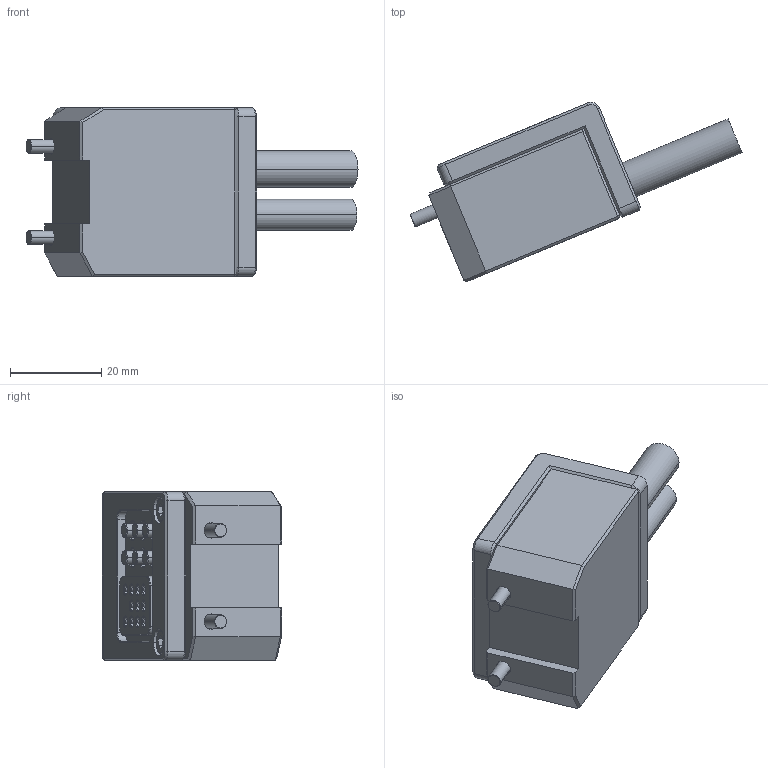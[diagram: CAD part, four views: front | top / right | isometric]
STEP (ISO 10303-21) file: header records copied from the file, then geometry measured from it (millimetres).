
FILE_DESCRIPTION (( 'STEP AP203' ), '1' );
FILE_NAME ('QCSM-RJ45~5M-06G.STEP', '2024-01-11T01:05:05', ( '' ), ( '' ), 'SwSTEP 2.0', 'SolidWorks 2018', '' );
FILE_SCHEMA (( 'CONFIG_CONTROL_DESIGN' ));
Length unit declared in the file: millimetre
Products named in the file (1): QCSM-RJ45~5M-06G
Bounding box: 72.74 x 39.26 x 37 mm (x, y, z)
Volume: 39893.7 mm3; surface area: 9759 mm2
Topology: 1 solids, 1 shells, 366 faces, 848 edges, 508 vertices
Faces by surface type: plane 157, cylinder 110, cone 68, bspline 31
Entity records: 10565 total; most frequent: CARTESIAN_POINT 2223, DIRECTION 1831, ORIENTED_EDGE 1636, EDGE_CURVE 818, AXIS2_PLACEMENT_3D 702, VERTEX_POINT 508, VECTOR 427, LINE 427
